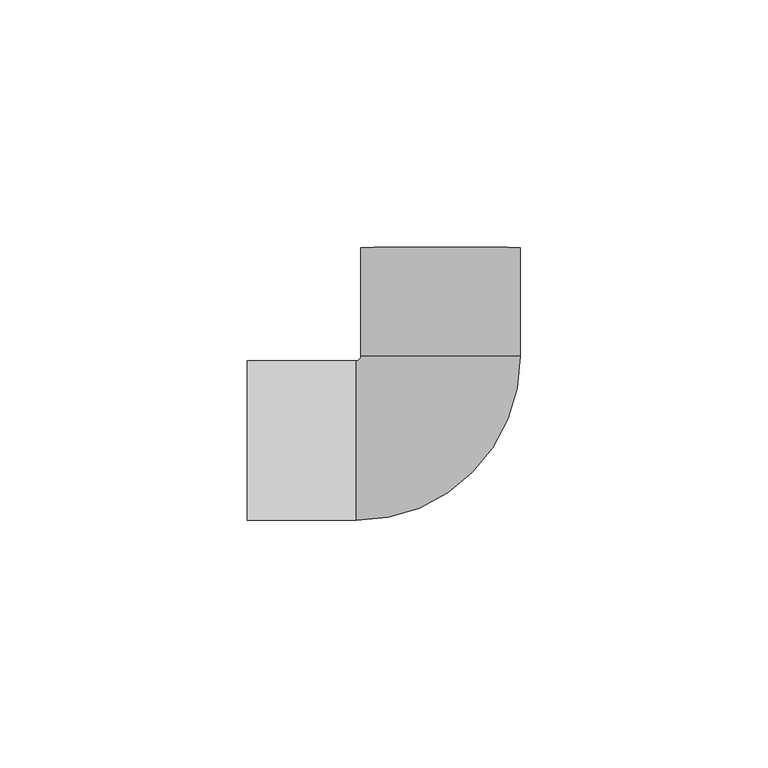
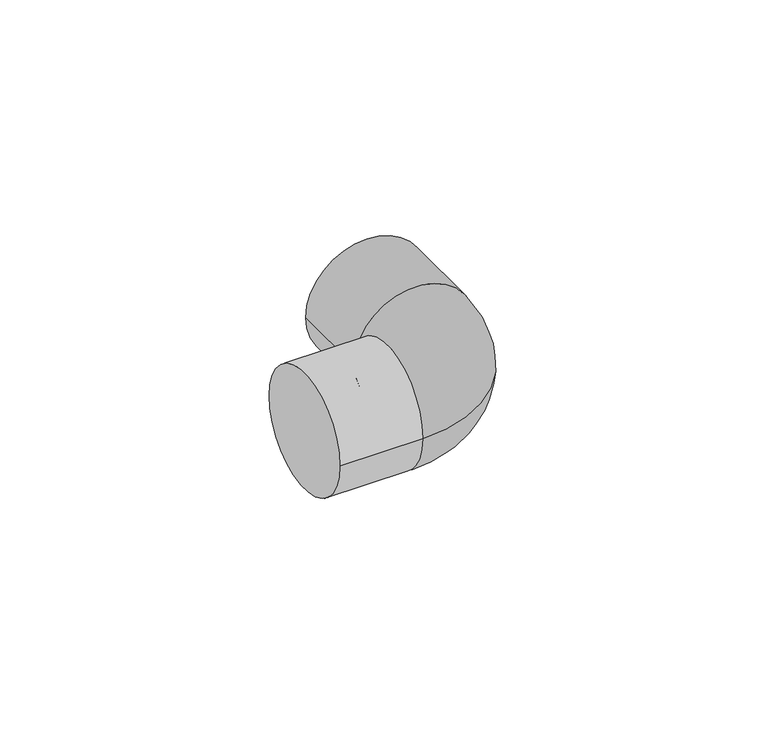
"""IFC4 building model written with IfcOpenShell, lengths in millimetres: pipe fitting geometry, 01051001 : Codos 90º."""

from ifc_helpers import new_model, si_unit, point, frame, origin, place, context, project, spatial, circle_curve, ellipse_curve, trimmed, source, transform, mapped, element, save
from ifc_brep_helpers import plane_surface, cylinder_surface, revolved_surface, advanced_brep


def pipe_fitting_f0512398(model_context):
    return source(origin(), model_context, "Body", "AdvancedBrep", [
        advanced_brep(
        [(-17.0, -16.15, 0.0), (16.15, 17.0, 0.0), (-16.15, 17.0, 0.0), (-17.0, 16.15, 0.0), (-16.15, 39.0, 0.0), (16.15, 39.0, 0.0), (-39.0, 16.15, 0.0), (-39.0, -16.15, 0.0)],
        [
            (0, 1, circle_curve(frame((-17.0, 17.0, 0.0), z_axis=(0.0, 0.0, 1.0), x_axis=(1.0, 0.0, 0.0)), 33.15)),
            (1, 2, circle_curve(frame((0.0, 17.0, 0.0), z_axis=(0.0, -1.0, 0.0), x_axis=(1.0, 0.0, 0.0)), 16.15)),
            (2, 3, circle_curve(frame((-17.0, 17.0, 0.0), z_axis=(0.0, 0.0, -1.0), x_axis=(1.0, 0.0, 0.0)), 0.85)),
            (3, 0, circle_curve(frame((-17.0, 0.0, 0.0), z_axis=(1.0, 0.0, 0.0), x_axis=(0.0, -1.0, 0.0)), 16.15)),
            (2, 1, circle_curve(frame((0.0, 17.0, 0.0), z_axis=(0.0, -1.0, 0.0), x_axis=(1.0, 0.0, 0.0)), 16.15)),
            (0, 3, circle_curve(frame((-17.0, 0.0, 0.0), z_axis=(1.0, 0.0, 0.0), x_axis=(0.0, -1.0, 0.0)), 16.15)),
            (4, 5, circle_curve(frame((0.0, 39.0, 0.0), z_axis=(0.0, 1.0, 0.0), x_axis=(1.0, 0.0, 0.0)), 16.15)),
            (5, 4, circle_curve(frame((0.0, 39.0, 0.0), z_axis=(0.0, 1.0, 0.0), x_axis=(1.0, 0.0, 0.0)), 16.15)),
            (4, 2),
            (1, 5),
            (6, 7, circle_curve(frame((-39.0, 0.0, 0.0), z_axis=(-1.0, 0.0, 0.0), x_axis=(0.0, -1.0, 0.0)), 16.15)),
            (7, 6, circle_curve(frame((-39.0, 0.0, 0.0), z_axis=(-1.0, 0.0, 0.0), x_axis=(0.0, -1.0, 0.0)), 16.15)),
            (3, 6),
            (7, 0),
        ],
        [
            revolved_surface(trimmed(ellipse_curve(frame((0.0, 17.0, 0.0), z_axis=(0.0, 1.0, 0.0), x_axis=(1.0, 0.0, 0.0)), 16.15, 16.15), [point((-16.15, 17.0, 0.0))], [point((16.15, 17.0, 0.0))], True, "CARTESIAN"), (-17.0, 17.0, 0.0), (0.0, 0.0, -1.0)),
            revolved_surface(trimmed(ellipse_curve(frame((0.0, 17.0, 0.0), z_axis=(0.0, 1.0, 0.0), x_axis=(1.0, 0.0, 0.0)), 16.15, 16.15), [point((16.15, 17.0, 0.0))], [point((-16.15, 17.0, 0.0))], True, "CARTESIAN"), (-17.0, 17.0, 0.0), (0.0, 0.0, -1.0)),
            plane_surface(frame((0.0, 39.0, 0.0), z_axis=(0.0, 1.0, 0.0), x_axis=(0.0, 0.0, 1.0))),
            cylinder_surface(frame((0.0, 39.0, 0.0), z_axis=(0.0, 1.0, 0.0), x_axis=(1.0, 0.0, 0.0)), 16.15),
            plane_surface(frame((-39.0, 0.0, 0.0), z_axis=(-1.0, 0.0, 0.0), x_axis=(0.0, 0.0, 1.0))),
            cylinder_surface(frame((-17.0, 0.0, 0.0), z_axis=(1.0, 0.0, 0.0), x_axis=(0.0, -1.0, 0.0)), 16.15),
        ],
        [
            (0, [[1, 2, 3, 4]]),
            (1, [[-3, 5, -1, 6]]),
            (2, [[7, 8]]),
            (3, [[-7, 9, -2, 10]]),
            (3, [[-8, -10, -5, -9]]),
            (4, [[11, 12]]),
            (5, [[-4, 13, -12, 14]]),
            (5, [[-6, -14, -11, -13]]),
        ],
    ),
    ])


if __name__ == "__main__":
    model = new_model("IFC4")
    model_context = context("Model", 3, world=origin())
    ifc_project = project(units=[si_unit("LENGTHUNIT", "METRE", prefix="MILLI")], contexts=[model_context])
    site = spatial("IfcSite", under=ifc_project)
    building = spatial("IfcBuilding", under=site)
    placement = place(None, origin())
    pipe_fitting_shape = pipe_fitting_f0512398(model_context)
    element("IfcPipeFitting", 1, ObjectType="01051001 : Codos 90º", at=placement, inside=building, context=model_context, shape_type="MappedRepresentation", body=[
        mapped(pipe_fitting_shape, transform((0.0, 0.0, 0.0), x_axis=(1.0, 0.0, 0.0), y_axis=(0.0, 1.0, 0.0), z_axis=(0.0, 0.0, 1.0))),
    ])
    save(model, "model.ifc")
